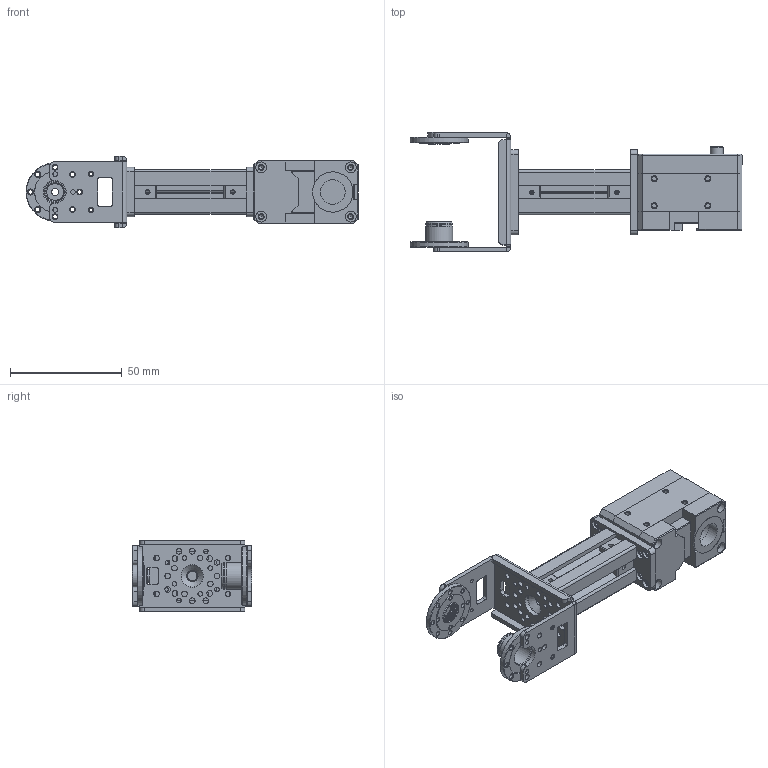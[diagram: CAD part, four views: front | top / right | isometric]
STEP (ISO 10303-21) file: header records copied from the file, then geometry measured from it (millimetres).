
FILE_DESCRIPTION(/* description */ (''),/* implementation_level */ '2;1');
FILE_NAME(/* name */ 'C:\Users\robos\OneDrive\ドキュメント\Inventor\OpenMANIPULATOR\OpenMANIPULATOR-MAX\urdf変換\om-max_link4.stp',/* time_stamp */ '2020-11-05T02:09:28+09:00',/* author */ ('Y.Shibata'),/* organization */ (''),/* preprocessor_version */ 'ST-DEVELOPER v15.2',/* originating_system */ 'Autodesk Inventor 2014',/* authorisation */ '');
FILE_SCHEMA (('AUTOMOTIVE_DESIGN { 1 0 10303 214 3 1 1 }'));
Length unit declared in the file: millimetre
Products named in the file (8): FR13_H101; HN13_N101; HN13_I101; FJ13-ALF5; (5シリーズ)HFS5-2020-50; XM430-W350; igus_JFM-1113-05; om-max_link4
Assembly tree (8 placements, depth 2):
  om-max_link4
    FR13_H101
    HN13_N101
    HN13_I101
    FJ13-ALF5  x2
    (5シリーズ)HFS5-2020-50
    XM430-W350
    igus_JFM-1113-05
Bounding box: 148.25 x 53.3 x 32 mm (x, y, z)
Volume: 65280.1 mm3; surface area: 41480.8 mm2
Topology: 11 solids, 11 shells, 928 faces, 2367 edges, 1533 vertices
Faces by surface type: plane 480, cylinder 344, cone 103, torus 1
Full cylindrical faces by diameter (mm): 1.6 x4, 2 x10, 2.013 x8, 2.05 x52, 2.1 x1, 2.5 x54, 2.6 x12, 3.2 x1, 4 x24, 4.2 x1, 4.8 x8, 5.1 x2, 5.8 x1, 9.9 x1, 10 x3, 11 x1, 11.6 x1, 11.9 x1, 12 x1, 13 x2, 18 x1, 18.2 x2, 26 x2
Entity records: 24898 total; most frequent: CARTESIAN_POINT 5011, DIRECTION 4007, ORIENTED_EDGE 3606, EDGE_CURVE 1803, AXIS2_PLACEMENT_3D 1506, EDGE_LOOP 1345, VERTEX_POINT 1314, LINE 995
